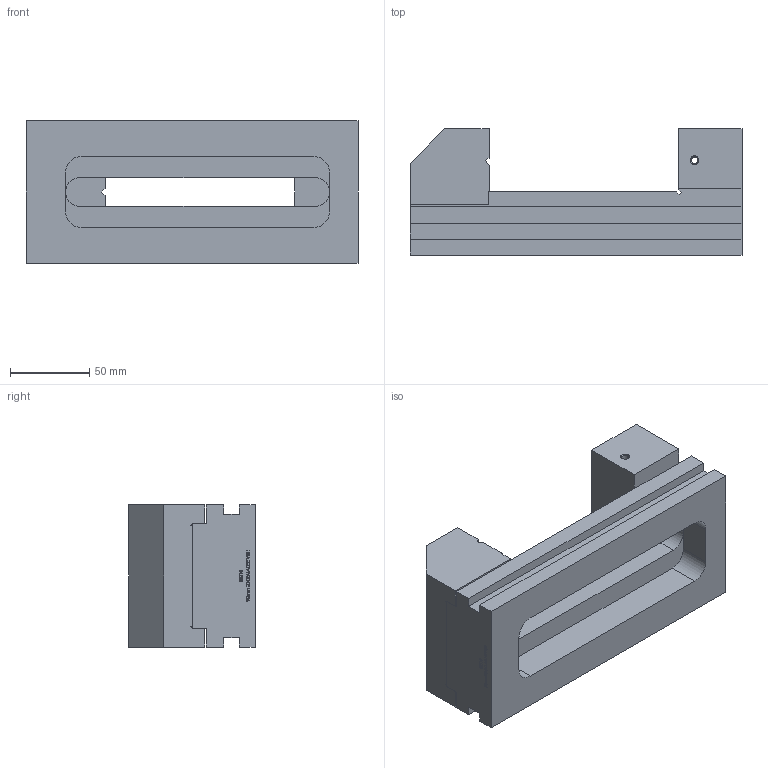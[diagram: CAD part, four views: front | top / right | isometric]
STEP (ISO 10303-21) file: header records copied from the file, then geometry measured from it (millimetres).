
FILE_DESCRIPTION (( 'STEP AP214' ), '1' );
FILE_NAME ('33110 90mm TOOLMAKER VISE.STEP', '2016-06-01T16:29:32', ( '' ), ( '' ), 'SwSTEP 2.0', 'SolidWorks 2014', '' );
FILE_SCHEMA (( 'AUTOMOTIVE_DESIGN' ));
Length unit declared in the file: millimetre
Products named in the file (1): 33110 90mm TOOLMAKER VISE
Bounding box: 210 x 80 x 90 mm (x, y, z)
Volume: 784961.9 mm3; surface area: 110684.8 mm2
Topology: 2 solids, 2 shells, 357 faces, 967 edges, 642 vertices
Faces by surface type: plane 236, bspline 109, cylinder 8, cone 4
Entity records: 20513 total; most frequent: CARTESIAN_POINT 9212, ORIENTED_EDGE 1934, DIRECTION 1269, EDGE_CURVE 967, LINE 727, VECTOR 727, VERTEX_POINT 642, EDGE_LOOP 389
